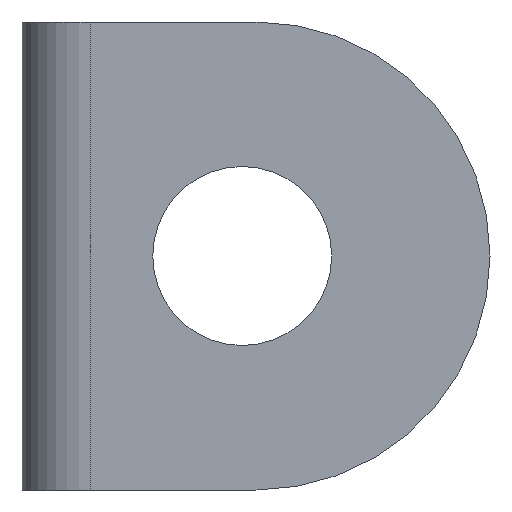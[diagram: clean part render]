
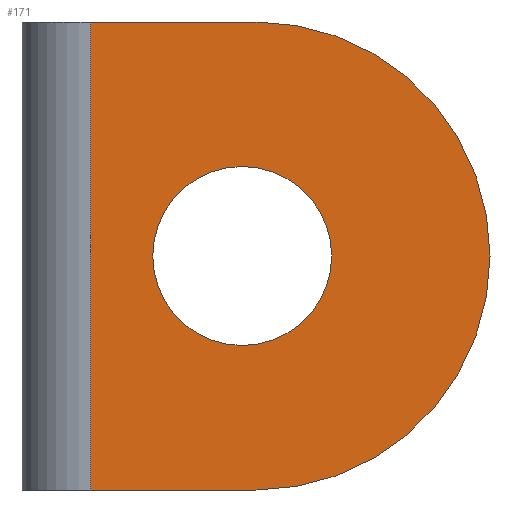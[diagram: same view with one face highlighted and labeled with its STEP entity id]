
A CAD part, front view. The second image highlights one B-rep face of the part: STEP entity #171.
In plain terms, the highlighted planar face has unit normal (0, -1, 0).
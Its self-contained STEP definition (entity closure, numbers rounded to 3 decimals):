
#20 = EDGE_CURVE ( 'NONE', #81, #176, #319, .T. ) ;
#79 = EDGE_CURVE ( 'NONE', #85, #106, #364, .T. ) ;
#81 = VERTEX_POINT ( 'NONE', #236 ) ;
#85 = VERTEX_POINT ( 'NONE', #357 ) ;
#106 = VERTEX_POINT ( 'NONE', #480 ) ;
#124 = VERTEX_POINT ( 'NONE', #461 ) ;
#125 = ORIENTED_EDGE ( 'NONE', *, *, #217, .T. ) ;
#162 = ORIENTED_EDGE ( 'NONE', *, *, #166, .T. ) ;
#163 = ORIENTED_EDGE ( 'NONE', *, *, #193, .F. ) ;
#164 = VERTEX_POINT ( 'NONE', #477 ) ;
#165 = ORIENTED_EDGE ( 'NONE', *, *, #79, .F. ) ;
#166 = EDGE_CURVE ( 'NONE', #164, #124, #474, .T. ) ;
#169 = EDGE_LOOP ( 'NONE', ( #214, #165 ) ) ;
#171 = ADVANCED_FACE ( 'NONE', ( #476, #475 ), #588, .F. ) ;
#176 = VERTEX_POINT ( 'NONE', #534 ) ;
#186 = VERTEX_POINT ( 'NONE', #503 ) ;
#193 = EDGE_CURVE ( 'NONE', #81, #186, #450, .T. ) ;
#213 = EDGE_CURVE ( 'NONE', #176, #164, #436, .T. ) ;
#214 = ORIENTED_EDGE ( 'NONE', *, *, #222, .F. ) ;
#217 = EDGE_CURVE ( 'NONE', #124, #186, #403, .T. ) ;
#218 = EDGE_LOOP ( 'NONE', ( #162, #125, #163, #220, #219 ) ) ;
#219 = ORIENTED_EDGE ( 'NONE', *, *, #213, .T. ) ;
#220 = ORIENTED_EDGE ( 'NONE', *, *, #20, .T. ) ;
#222 = EDGE_CURVE ( 'NONE', #106, #85, #402, .T. ) ;
#236 = CARTESIAN_POINT ( 'NONE',  ( 0.5, -2., 17. ) ) ;
#278 = DIRECTION ( 'NONE',  ( 0., 0., -1. ) ) ;
#279 = AXIS2_PLACEMENT_3D ( 'NONE', #363, #371, #278 ) ;
#281 = DIRECTION ( 'NONE',  ( 0., 0., -1. ) ) ;
#282 = VECTOR ( 'NONE', #281, 1000. ) ;
#319 = LINE ( 'NONE', #323, #282 ) ;
#323 = CARTESIAN_POINT ( 'NONE',  ( 0.5, -2., 17. ) ) ;
#357 = CARTESIAN_POINT ( 'NONE',  ( 6., -2., 11.75 ) ) ;
#363 = CARTESIAN_POINT ( 'NONE',  ( 6., -2., 8.5 ) ) ;
#364 = CIRCLE ( 'NONE', #279, 3.25 ) ;
#371 = DIRECTION ( 'NONE',  ( 0., -1., 0. ) ) ;
#386 = DIRECTION ( 'NONE',  ( 0., 0., -1. ) ) ;
#387 = DIRECTION ( 'NONE',  ( 0., -1., 0. ) ) ;
#388 = CARTESIAN_POINT ( 'NONE',  ( 6., -2., 8.5 ) ) ;
#389 = AXIS2_PLACEMENT_3D ( 'NONE', #388, #387, #386 ) ;
#397 = DIRECTION ( 'NONE',  ( 0., 0., 1. ) ) ;
#398 = DIRECTION ( 'NONE',  ( 0., -1., 0. ) ) ;
#402 = CIRCLE ( 'NONE', #389, 3.25 ) ;
#403 = CIRCLE ( 'NONE', #432, 8.5 ) ;
#404 = DIRECTION ( 'NONE',  ( 1., 0., 0. ) ) ;
#405 = VECTOR ( 'NONE', #404, 1000. ) ;
#408 = CARTESIAN_POINT ( 'NONE',  ( 6.5, -2., 8.5 ) ) ;
#432 = AXIS2_PLACEMENT_3D ( 'NONE', #408, #398, #397 ) ;
#435 = CARTESIAN_POINT ( 'NONE',  ( 0., -2., 0. ) ) ;
#436 = LINE ( 'NONE', #435, #405 ) ;
#447 = DIRECTION ( 'NONE',  ( 1., 0., 0. ) ) ;
#448 = VECTOR ( 'NONE', #447, 1000. ) ;
#449 = CARTESIAN_POINT ( 'NONE',  ( 0., -2., 17. ) ) ;
#450 = LINE ( 'NONE', #449, #448 ) ;
#461 = CARTESIAN_POINT ( 'NONE',  ( 15., -2., 8.5 ) ) ;
#470 = DIRECTION ( 'NONE',  ( 0., 0., 1. ) ) ;
#471 = DIRECTION ( 'NONE',  ( 0., -1., 0. ) ) ;
#472 = CARTESIAN_POINT ( 'NONE',  ( 6.5, -2., 8.5 ) ) ;
#473 = AXIS2_PLACEMENT_3D ( 'NONE', #472, #471, #470 ) ;
#474 = CIRCLE ( 'NONE', #473, 8.5 ) ;
#475 = FACE_OUTER_BOUND ( 'NONE', #218, .T. ) ;
#476 = FACE_BOUND ( 'NONE', #169, .T. ) ;
#477 = CARTESIAN_POINT ( 'NONE',  ( 6.5, -2., 0. ) ) ;
#480 = CARTESIAN_POINT ( 'NONE',  ( 6., -2., 5.25 ) ) ;
#503 = CARTESIAN_POINT ( 'NONE',  ( 6.5, -2., 17. ) ) ;
#534 = CARTESIAN_POINT ( 'NONE',  ( 0.5, -2., 0. ) ) ;
#541 = DIRECTION ( 'NONE',  ( 0., 0., 1. ) ) ;
#542 = DIRECTION ( 'NONE',  ( 0., 1., 0. ) ) ;
#543 = CARTESIAN_POINT ( 'NONE',  ( 0., -2., 17. ) ) ;
#588 = PLANE ( 'NONE',  #592 ) ;
#592 = AXIS2_PLACEMENT_3D ( 'NONE', #543, #542, #541 ) ;
